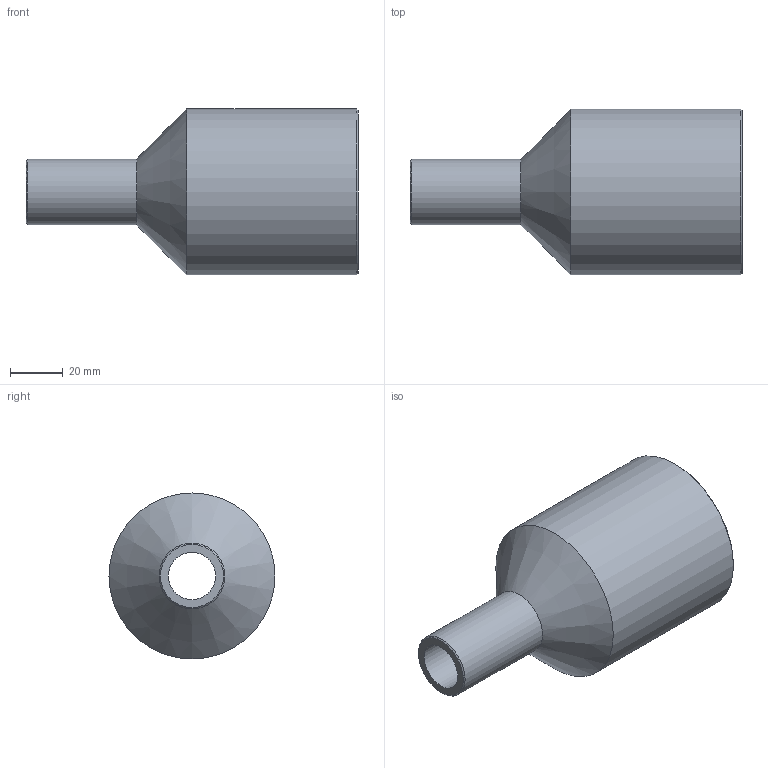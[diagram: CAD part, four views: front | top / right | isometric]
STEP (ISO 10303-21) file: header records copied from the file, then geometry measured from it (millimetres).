
FILE_DESCRIPTION(/* description */ ('Unknown'),/* implementation_level */ '2;1');
FILE_NAME(/* name */ 'RP063025H',/* time_stamp */ '2021-09-16T11:23:55+02:00',/* author */ ('Unknown'),/* organization */ ('Unknown'),/* preprocessor_version */ 'ST-DEVELOPER v16.7',/* originating_system */ 'Solid Edge',/* authorisation */ 'Unknown');
FILE_SCHEMA (('AUTOMOTIVE_DESIGN {1 0 10303 214 3 1 1}'));
Length unit declared in the file: millimetre
Products named in the file (1): RP063025H
Bounding box: 126 x 63 x 63 mm (x, y, z)
Volume: 125945.3 mm3; surface area: 35172.9 mm2
Topology: 1 solids, 1 shells, 10 faces, 19 edges, 11 vertices
Faces by surface type: cylinder 4, cone 4, plane 2
Full cylindrical faces by diameter (mm): 18 x1, 25 x1, 45.8 x1, 63 x1
Entity records: 238 total; most frequent: DIRECTION 42, CARTESIAN_POINT 31, AXIS2_PLACEMENT_3D 21, ORIENTED_EDGE 20, EDGE_LOOP 20, FACE_BOUND 20, EDGE_CURVE 10, VERTEX_POINT 10
